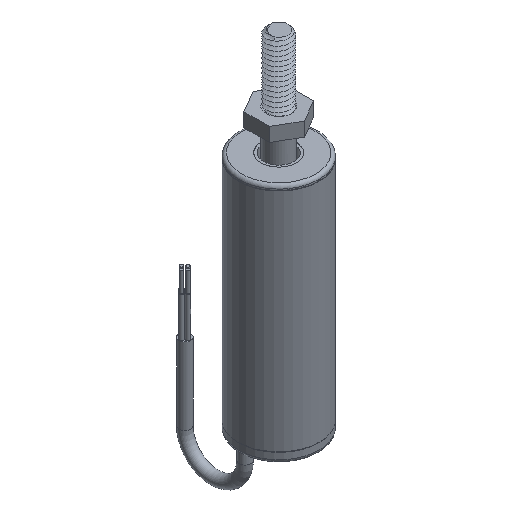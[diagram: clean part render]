
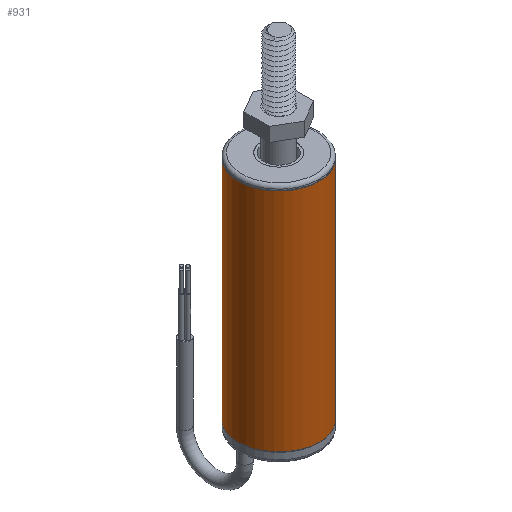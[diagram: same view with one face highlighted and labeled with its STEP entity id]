
A CAD part, isometric view. The second image highlights one B-rep face of the part: STEP entity #931.
In plain terms, the highlighted cylindrical face has radius 6.35 mm (diameter 12.7 mm), a full revolution.
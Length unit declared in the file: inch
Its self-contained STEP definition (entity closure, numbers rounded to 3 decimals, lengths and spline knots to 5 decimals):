
#115=FACE_OUTER_BOUND('',#178,.T.);
#178=EDGE_LOOP('',(#615,#616,#617,#618));
#259=LINE('',#1595,#309);
#309=VECTOR('',#1298,0.25);
#360=CIRCLE('',#1164,0.25);
#361=CIRCLE('',#1165,0.25);
#416=VERTEX_POINT('',#1592);
#417=VERTEX_POINT('',#1594);
#495=EDGE_CURVE('',#416,#416,#360,.T.);
#496=EDGE_CURVE('',#416,#417,#259,.T.);
#497=EDGE_CURVE('',#417,#417,#361,.T.);
#615=ORIENTED_EDGE('',*,*,#495,.F.);
#616=ORIENTED_EDGE('',*,*,#496,.T.);
#617=ORIENTED_EDGE('',*,*,#497,.F.);
#618=ORIENTED_EDGE('',*,*,#496,.F.);
#850=CYLINDRICAL_SURFACE('',#1163,0.25);
#931=ADVANCED_FACE('',(#115),#850,.T.);
#1163=AXIS2_PLACEMENT_3D('',#1591,#1294,#1295);
#1164=AXIS2_PLACEMENT_3D('',#1593,#1296,#1297);
#1165=AXIS2_PLACEMENT_3D('',#1596,#1299,#1300);
#1294=DIRECTION('center_axis',(0.,0.,-1.));
#1295=DIRECTION('ref_axis',(-1.,0.,0.));
#1296=DIRECTION('center_axis',(0.,0.,-1.));
#1297=DIRECTION('ref_axis',(-1.,0.,0.));
#1298=DIRECTION('',(0.,0.,1.));
#1299=DIRECTION('center_axis',(0.,0.,1.));
#1300=DIRECTION('ref_axis',(-1.,0.,0.));
#1591=CARTESIAN_POINT('Origin',(0.,0.,0.));
#1592=CARTESIAN_POINT('',(0.25,0.,-1.41));
#1593=CARTESIAN_POINT('Origin',(0.,0.,-1.41));
#1594=CARTESIAN_POINT('',(0.25,0.,0.));
#1595=CARTESIAN_POINT('',(0.25,0.,0.));
#1596=CARTESIAN_POINT('Origin',(0.,0.,0.));
